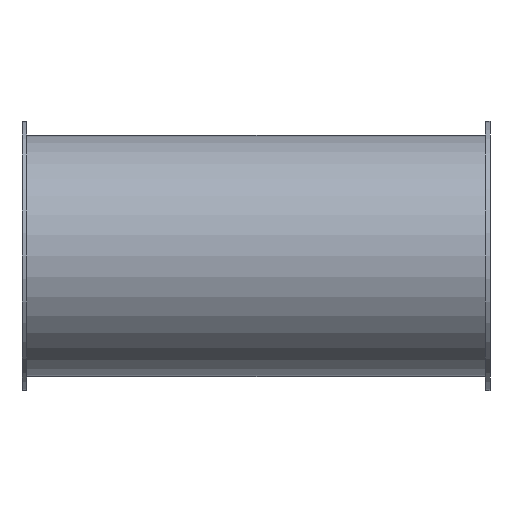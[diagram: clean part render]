
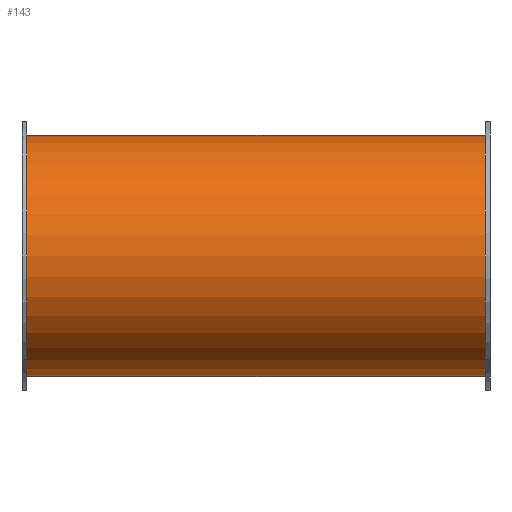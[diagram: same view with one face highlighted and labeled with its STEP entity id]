
A CAD part, front view. The second image highlights one B-rep face of the part: STEP entity #143.
In plain terms, the highlighted cylindrical face has radius 51.5 mm (diameter 103 mm), a full revolution.
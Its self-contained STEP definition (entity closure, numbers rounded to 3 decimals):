
#112=CARTESIAN_POINT('',(166.119,2.817,0.0));
#113=VERTEX_POINT('',#112);
#114=CARTESIAN_POINT('',(166.119,54.317,0.0));
#115=DIRECTION('',(-1.0,0.0,0.0));
#116=DIRECTION('',(0.0,-1.0,0.0));
#117=AXIS2_PLACEMENT_3D('',#114,#115,#116);
#118=CIRCLE('',#117,51.5);
#119=EDGE_CURVE('',#113,#113,#118,.T.);
#124=CARTESIAN_POINT('',(68.119,54.317,0.0));
#125=DIRECTION('',(-1.0,0.,0.0));
#126=DIRECTION('',(0.0,-1.0,0.0));
#127=AXIS2_PLACEMENT_3D('',#124,#125,#126);
#128=CYLINDRICAL_SURFACE('',#127,51.5);
#129=CARTESIAN_POINT('',(-29.881,2.817,0.0));
#130=VERTEX_POINT('',#129);
#131=CARTESIAN_POINT('',(-29.881,54.317,0.0));
#132=DIRECTION('',(-1.0,0.0,0.0));
#133=DIRECTION('',(0.0,-1.0,0.0));
#134=AXIS2_PLACEMENT_3D('',#131,#132,#133);
#135=CIRCLE('',#134,51.5);
#136=EDGE_CURVE('',#130,#130,#135,.T.);
#137=ORIENTED_EDGE('',*,*,#136,.F.);
#138=EDGE_LOOP('',(#137));
#139=FACE_OUTER_BOUND('',#138,.T.);
#140=ORIENTED_EDGE('',*,*,#119,.T.);
#141=EDGE_LOOP('',(#140));
#142=FACE_BOUND('',#141,.T.);
#143=ADVANCED_FACE('',(#139,#142),#128,.T.);
